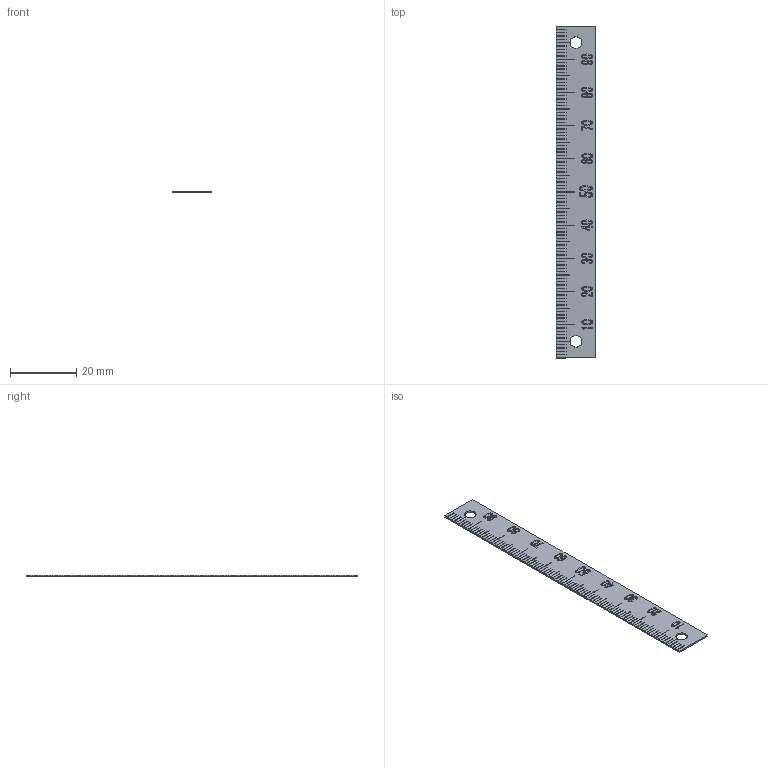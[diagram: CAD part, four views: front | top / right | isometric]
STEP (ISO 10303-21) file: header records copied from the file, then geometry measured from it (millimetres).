
FILE_DESCRIPTION (( 'STEP AP203' ), '1' );
FILE_NAME ('es2n-u100r.STEP', '2023-06-15T06:55:49', ( '' ), ( '' ), 'SwSTEP 2.0', 'SolidWorks 2021', '' );
FILE_SCHEMA (( 'CONFIG_CONTROL_DESIGN' ));
Length unit declared in the file: millimetre
Products named in the file (1): es2n-u100r
Bounding box: 12 x 100 x 0.5 mm (x, y, z)
Volume: 589.7 mm3; surface area: 2493.5 mm2
Topology: 1 solids, 1 shells, 759 faces, 2175 edges, 1450 vertices
Faces by surface type: plane 482, bspline 273, cylinder 4
Entity records: 34940 total; most frequent: CARTESIAN_POINT 16874, ORIENTED_EDGE 4350, DIRECTION 2611, EDGE_CURVE 2175, VECTOR 1621, LINE 1621, VERTEX_POINT 1450, EDGE_LOOP 795
